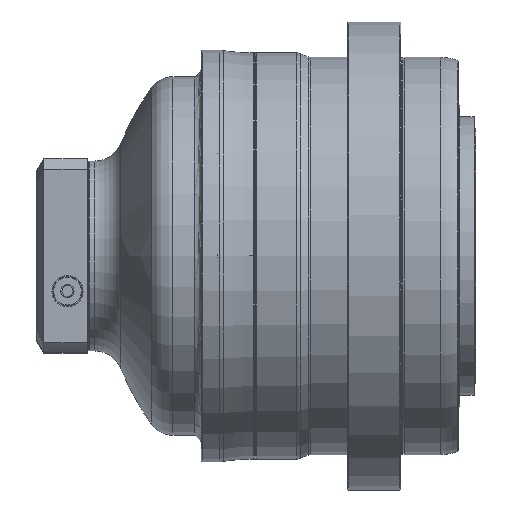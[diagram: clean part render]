
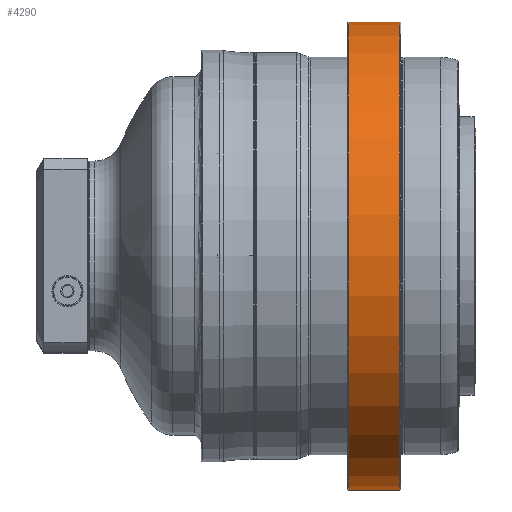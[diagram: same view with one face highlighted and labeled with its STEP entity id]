
A CAD part, top view. The second image highlights one B-rep face of the part: STEP entity #4290.
In plain terms, the highlighted cylindrical face has radius 265 mm (diameter 530 mm), a partial arc.
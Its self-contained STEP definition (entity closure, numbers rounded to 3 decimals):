
#1110=CARTESIAN_POINT('',(-59.,0.,0.));
#1111=DIRECTION('',(-1.,0.,0.));
#1112=DIRECTION('',(0.,-1.,0.));
#1113=AXIS2_PLACEMENT_3D('',#1110,#1111,#1112);
#1135=DIRECTION('',(-1.,0.,0.));
#1136=VECTOR('',#1135,58.);
#1137=CARTESIAN_POINT('',(-1.,-265.,0.));
#1138=LINE('',#1137,#1136);
#1139=DIRECTION('',(-1.,0.,0.));
#1140=VECTOR('',#1139,58.);
#1141=CARTESIAN_POINT('',(-1.,265.,0.));
#1142=LINE('',#1141,#1140);
#1143=CARTESIAN_POINT('',(-1.,0.,0.));
#1144=DIRECTION('',(-1.,0.,0.));
#1145=DIRECTION('',(0.,-1.,0.));
#1146=AXIS2_PLACEMENT_3D('',#1143,#1144,#1145);
#2109=CARTESIAN_POINT('',(-1.,-265.,0.));
#2110=CARTESIAN_POINT('',(-1.,265.,0.));
#2111=VERTEX_POINT('',#2109);
#2112=VERTEX_POINT('',#2110);
#2121=CARTESIAN_POINT('',(-59.,-265.,0.));
#2122=CARTESIAN_POINT('',(-59.,265.,0.));
#2123=VERTEX_POINT('',#2121);
#2124=VERTEX_POINT('',#2122);
#4278=CARTESIAN_POINT('',(-176.5,0.,0.));
#4279=DIRECTION('',(1.,0.,0.));
#4280=DIRECTION('',(0.,-1.,0.));
#4281=AXIS2_PLACEMENT_3D('',#4278,#4279,#4280);
#4282=CYLINDRICAL_SURFACE('',#4281,265.);
#4283=ORIENTED_EDGE('',*,*,#4243,.T.);
#4284=ORIENTED_EDGE('',*,*,#4273,.F.);
#4286=ORIENTED_EDGE('',*,*,#4285,.F.);
#4287=ORIENTED_EDGE('',*,*,#4269,.T.);
#4288=EDGE_LOOP('',(#4283,#4284,#4286,#4287));
#4289=FACE_OUTER_BOUND('',#4288,.F.);
#4290=ADVANCED_FACE('',(#4289),#4282,.T.);
#1114=CIRCLE('',#1113,265.);
#1147=CIRCLE('',#1146,265.);
#4243=EDGE_CURVE('',#2123,#2124,#1114,.T.);
#4269=EDGE_CURVE('',#2111,#2123,#1138,.T.);
#4273=EDGE_CURVE('',#2112,#2124,#1142,.T.);
#4285=EDGE_CURVE('',#2111,#2112,#1147,.T.);
